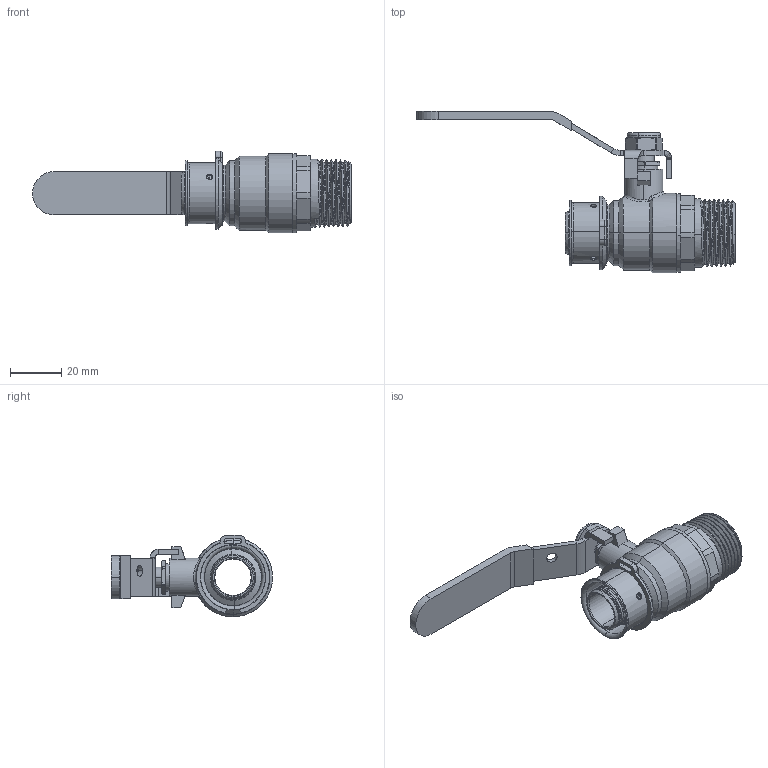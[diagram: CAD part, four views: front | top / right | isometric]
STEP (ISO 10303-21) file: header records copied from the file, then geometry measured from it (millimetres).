
FILE_DESCRIPTION (( 'STEP AP203' ), '1' );
FILE_NAME ('150-734G.STEP', '2026-05-15T01:57:45', ( '' ), ( '' ), 'SwSTEP 2.0', 'SolidWorks 2014', '' );
FILE_SCHEMA (( 'CONFIG_CONTROL_DESIGN' ));
Length unit declared in the file: millimetre
Products named in the file (13): 24.5球; 2PP075俋蹟恇裔; 11沓蹋; 050忒梟; M8滅侂蹟譫; 21密封圈; 3347塑料限位圈075; 150-734G; 29概裝; 5x1.5(O型圈); M12ѹñ; 075概极; 075詩杶
Assembly tree (13 placements, depth 2):
  150-734G
    11沓蹋
    24.5球
    29概裝
    5x1.5(O型圈)
    3347塑料限位圈075
    M8滅侂蹟譫
    M12ѹñ
    075概极
    21密封圈  x2
    050忒梟
    075詩杶
    2PP075俋蹟恇裔
Bounding box: 125 x 63.15 x 32.01 mm (x, y, z)
Volume: 27616.5 mm3; surface area: 28417.3 mm2
Topology: 13 solids, 13 shells, 663 faces, 1675 edges, 1048 vertices
Faces by surface type: cylinder 231, plane 165, cone 118, bspline 89, torus 54, sphere 6
Entity records: 45470 total; most frequent: CARTESIAN_POINT 29405, ORIENTED_EDGE 3278, DIRECTION 2862, EDGE_CURVE 1639, AXIS2_PLACEMENT_3D 1144, VERTEX_POINT 1028, EDGE_LOOP 699, FACE_OUTER_BOUND 651
